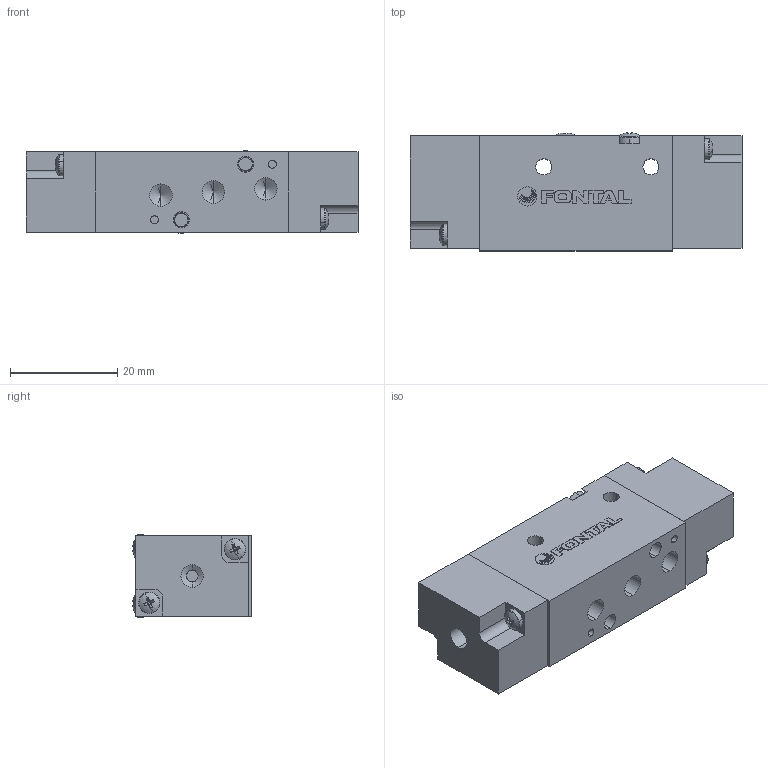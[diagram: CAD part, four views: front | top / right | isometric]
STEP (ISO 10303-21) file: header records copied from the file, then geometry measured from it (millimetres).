
FILE_DESCRIPTION (( 'STEP AP203' ), '1' );
FILE_NAME ('YCD345-M5.STEP', '2016-01-13T18:16:47', ( '' ), ( '' ), 'SwSTEP 2.0', 'SolidWorks 2014', '' );
FILE_SCHEMA (( 'CONFIG_CONTROL_DESIGN' ));
Length unit declared in the file: millimetre
Products named in the file (7): ISO 7045 - M2.5 x 25; YCD345-M5; ISO 7045 - M2 x 10; VCS245-1; VCS245-右側; RCS-2; PC-MARK
Assembly tree (9 placements, depth 3):
  YCD345-M5
    RCS-2
    PC-MARK
    ISO 7045 - M2.5 x 25  x2
    VCS245-右側  x2
      VCS245-1
      ISO 7045 - M2 x 10
Bounding box: 62 x 22.05 x 15.4 mm (x, y, z)
Volume: 17580.4 mm3; surface area: 9260.7 mm2
Topology: 16 solids, 16 shells, 442 faces, 1084 edges, 665 vertices
Faces by surface type: plane 233, cylinder 85, cone 80, torus 24, sphere 12, bspline 8
Entity records: 8209 total; most frequent: CARTESIAN_POINT 1434, DIRECTION 1288, ORIENTED_EDGE 1208, EDGE_CURVE 604, AXIS2_PLACEMENT_3D 473, VERTEX_POINT 387, LINE 342, VECTOR 342
